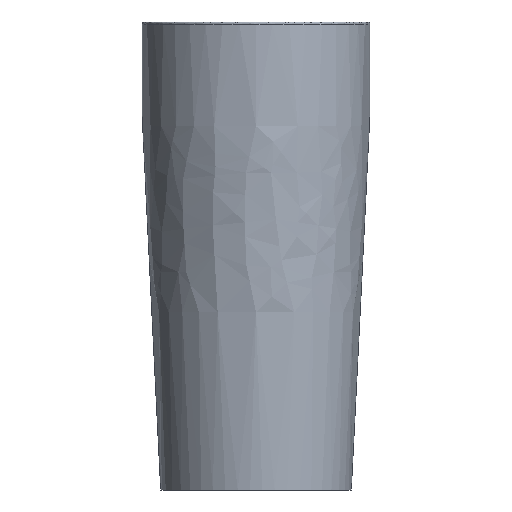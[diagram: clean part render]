
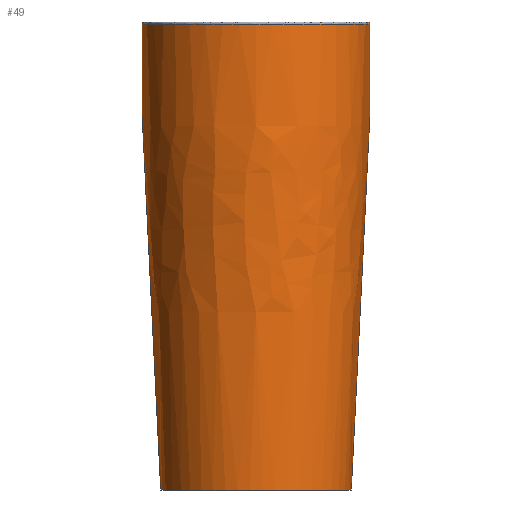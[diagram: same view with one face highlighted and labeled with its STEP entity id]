
A CAD part, front view. The second image highlights one B-rep face of the part: STEP entity #49.
In plain terms, the highlighted free-form (B-spline) face has degree [2, 3] with [5, 9] control points.
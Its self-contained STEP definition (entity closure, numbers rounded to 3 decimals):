
#49=ADVANCED_FACE('',(#67),#249,.T.);
#67=FACE_OUTER_BOUND('',#85,.T.);
#85=EDGE_LOOP('',(#137,#138,#139,#140));
#137=ORIENTED_EDGE('',*,*,#178,.T.);
#138=ORIENTED_EDGE('',*,*,#164,.T.);
#139=ORIENTED_EDGE('',*,*,#179,.F.);
#140=ORIENTED_EDGE('',*,*,#177,.F.);
#164=EDGE_CURVE('',#223,#228,#196,.T.);
#177=EDGE_CURVE('',#231,#232,#209,.T.);
#178=EDGE_CURVE('',#231,#223,#210,.T.);
#179=EDGE_CURVE('',#232,#228,#211,.T.);
#196=(
BOUNDED_CURVE()
B_SPLINE_CURVE(3,(#1036,#1037,#1038,#1039,#1040,#1041,#1042,#1043,#1044),
 .UNSPECIFIED.,.F.,.F.)
B_SPLINE_CURVE_WITH_KNOTS((4,1,1,1,1,1,4),(-866.693,-722.81,
-535.883,-287.899,-189.397,-115.948,
0.),.UNSPECIFIED.)
CURVE()
GEOMETRIC_REPRESENTATION_ITEM()
RATIONAL_B_SPLINE_CURVE((1.,1.,1.,1.,1.,1.,1.,1.,1.))
REPRESENTATION_ITEM('')
);
#209=(
BOUNDED_CURVE()
B_SPLINE_CURVE(3,(#1126,#1127,#1128,#1129,#1130,#1131,#1132,#1133,#1134),
 .UNSPECIFIED.,.F.,.F.)
B_SPLINE_CURVE_WITH_KNOTS((4,1,1,1,1,1,4),(-866.693,-722.81,
-535.883,-287.899,-189.397,-115.948,
0.),.UNSPECIFIED.)
CURVE()
GEOMETRIC_REPRESENTATION_ITEM()
RATIONAL_B_SPLINE_CURVE((1.,1.,1.,1.,1.,1.,1.,1.,1.))
REPRESENTATION_ITEM('')
);
#210=(
BOUNDED_CURVE()
B_SPLINE_CURVE(2,(#1135,#1136,#1137,#1138,#1139),.UNSPECIFIED.,.F.,.F.)
B_SPLINE_CURVE_WITH_KNOTS((3,2,3),(70.686,106.029,141.372),
 .UNSPECIFIED.)
CURVE()
GEOMETRIC_REPRESENTATION_ITEM()
RATIONAL_B_SPLINE_CURVE((1.,0.707,1.,0.707,1.))
REPRESENTATION_ITEM('')
);
#211=(
BOUNDED_CURVE()
B_SPLINE_CURVE(2,(#1140,#1141,#1142,#1143,#1144),.UNSPECIFIED.,.F.,.F.)
B_SPLINE_CURVE_WITH_KNOTS((3,2,3),(70.686,106.029,141.372),
 .UNSPECIFIED.)
CURVE()
GEOMETRIC_REPRESENTATION_ITEM()
RATIONAL_B_SPLINE_CURVE((1.,0.707,1.,0.707,1.))
REPRESENTATION_ITEM('')
);
#223=VERTEX_POINT('',#1019);
#228=VERTEX_POINT('',#1024);
#231=VERTEX_POINT('',#1027);
#232=VERTEX_POINT('',#1028);
#249=(
BOUNDED_SURFACE()
B_SPLINE_SURFACE(2,3,((#834,#835,#836,#837,#838,#839,#840,#841,#842),(#843,
#844,#845,#846,#847,#848,#849,#850,#851),(#852,#853,#854,#855,#856,#857,
#858,#859,#860),(#861,#862,#863,#864,#865,#866,#867,#868,#869),(#870,#871,
#872,#873,#874,#875,#876,#877,#878)),.UNSPECIFIED.,.F.,.F.,.F.)
B_SPLINE_SURFACE_WITH_KNOTS((3,2,3),(4,1,1,1,1,1,4),(70.686,106.029,
141.372),(-866.693,-722.81,-535.883,
-287.899,-189.397,-115.948,0.),.UNSPECIFIED.)
GEOMETRIC_REPRESENTATION_ITEM()
RATIONAL_B_SPLINE_SURFACE(((1.,1.,1.,1.,1.,1.,1.,1.,1.),(0.707,
0.707,0.707,0.707,0.707,
0.707,0.707,0.707,0.707),
(1.,1.,1.,1.,1.,1.,1.,1.,1.),(0.707,0.707,0.707,
0.707,0.707,0.707,0.707,
0.707,0.707),(1.,1.,1.,1.,1.,1.,1.,1.,1.)))
REPRESENTATION_ITEM('')
SURFACE()
);
#834=CARTESIAN_POINT('',(-177.193,0.,-34.317));
#835=CARTESIAN_POINT('',(-179.59,0.,13.585));
#836=CARTESIAN_POINT('',(-185.08,0.,123.718));
#837=CARTESIAN_POINT('',(-194.844,0.,316.404));
#838=CARTESIAN_POINT('',(-203.234,0.,494.002));
#839=CARTESIAN_POINT('',(-211.086,0.,633.778));
#840=CARTESIAN_POINT('',(-212.739,0.,729.742));
#841=CARTESIAN_POINT('',(-212.594,0.,792.882));
#842=CARTESIAN_POINT('',(-211.889,0.,831.525));
#843=CARTESIAN_POINT('',(-177.193,-177.193,-34.317));
#844=CARTESIAN_POINT('',(-179.59,-179.59,13.585));
#845=CARTESIAN_POINT('',(-185.08,-185.08,123.718));
#846=CARTESIAN_POINT('',(-194.844,-194.844,316.404));
#847=CARTESIAN_POINT('',(-203.234,-203.234,494.002));
#848=CARTESIAN_POINT('',(-211.086,-211.086,633.778));
#849=CARTESIAN_POINT('',(-212.739,-212.739,729.742));
#850=CARTESIAN_POINT('',(-212.594,-212.594,792.882));
#851=CARTESIAN_POINT('',(-211.889,-211.889,831.525));
#852=CARTESIAN_POINT('',(0.,-177.193,-34.317));
#853=CARTESIAN_POINT('',(0.,-179.59,13.585));
#854=CARTESIAN_POINT('',(0.,-185.08,123.718));
#855=CARTESIAN_POINT('',(0.,-194.844,316.404));
#856=CARTESIAN_POINT('',(0.,-203.234,494.002));
#857=CARTESIAN_POINT('',(0.,-211.086,633.778));
#858=CARTESIAN_POINT('',(0.,-212.739,729.742));
#859=CARTESIAN_POINT('',(0.,-212.594,792.882));
#860=CARTESIAN_POINT('',(0.,-211.889,831.525));
#861=CARTESIAN_POINT('',(177.193,-177.193,-34.317));
#862=CARTESIAN_POINT('',(179.59,-179.59,13.585));
#863=CARTESIAN_POINT('',(185.08,-185.08,123.718));
#864=CARTESIAN_POINT('',(194.844,-194.844,316.404));
#865=CARTESIAN_POINT('',(203.234,-203.234,494.002));
#866=CARTESIAN_POINT('',(211.086,-211.086,633.778));
#867=CARTESIAN_POINT('',(212.739,-212.739,729.742));
#868=CARTESIAN_POINT('',(212.594,-212.594,792.882));
#869=CARTESIAN_POINT('',(211.889,-211.889,831.525));
#870=CARTESIAN_POINT('',(177.193,0.,-34.317));
#871=CARTESIAN_POINT('',(179.59,0.,13.585));
#872=CARTESIAN_POINT('',(185.08,0.,123.718));
#873=CARTESIAN_POINT('',(194.844,0.,316.404));
#874=CARTESIAN_POINT('',(203.234,0.,494.002));
#875=CARTESIAN_POINT('',(211.086,0.,633.778));
#876=CARTESIAN_POINT('',(212.739,0.,729.742));
#877=CARTESIAN_POINT('',(212.594,0.,792.882));
#878=CARTESIAN_POINT('',(211.889,0.,831.525));
#1019=CARTESIAN_POINT('',(177.193,0.,-34.317));
#1024=CARTESIAN_POINT('',(211.889,0.,831.525));
#1027=CARTESIAN_POINT('',(-177.193,0.,-34.317));
#1028=CARTESIAN_POINT('',(-211.889,0.,831.525));
#1036=CARTESIAN_POINT('',(177.193,0.,-34.317));
#1037=CARTESIAN_POINT('',(179.59,0.,13.585));
#1038=CARTESIAN_POINT('',(185.08,0.,123.718));
#1039=CARTESIAN_POINT('',(194.844,0.,316.404));
#1040=CARTESIAN_POINT('',(203.234,0.,494.002));
#1041=CARTESIAN_POINT('',(211.086,0.,633.778));
#1042=CARTESIAN_POINT('',(212.739,0.,729.742));
#1043=CARTESIAN_POINT('',(212.594,0.,792.882));
#1044=CARTESIAN_POINT('',(211.889,0.,831.525));
#1126=CARTESIAN_POINT('',(-177.193,0.,-34.317));
#1127=CARTESIAN_POINT('',(-179.59,0.,13.585));
#1128=CARTESIAN_POINT('',(-185.08,0.,123.718));
#1129=CARTESIAN_POINT('',(-194.844,0.,316.404));
#1130=CARTESIAN_POINT('',(-203.234,0.,494.002));
#1131=CARTESIAN_POINT('',(-211.086,0.,633.778));
#1132=CARTESIAN_POINT('',(-212.739,0.,729.742));
#1133=CARTESIAN_POINT('',(-212.594,0.,792.882));
#1134=CARTESIAN_POINT('',(-211.889,0.,831.525));
#1135=CARTESIAN_POINT('',(-177.193,0.,-34.317));
#1136=CARTESIAN_POINT('',(-177.193,-177.193,-34.317));
#1137=CARTESIAN_POINT('',(0.,-177.193,-34.317));
#1138=CARTESIAN_POINT('',(177.193,-177.193,-34.317));
#1139=CARTESIAN_POINT('',(177.193,0.,-34.317));
#1140=CARTESIAN_POINT('',(-211.889,0.,831.525));
#1141=CARTESIAN_POINT('',(-211.889,-211.889,831.525));
#1142=CARTESIAN_POINT('',(0.,-211.889,831.525));
#1143=CARTESIAN_POINT('',(211.889,-211.889,831.525));
#1144=CARTESIAN_POINT('',(211.889,0.,831.525));
